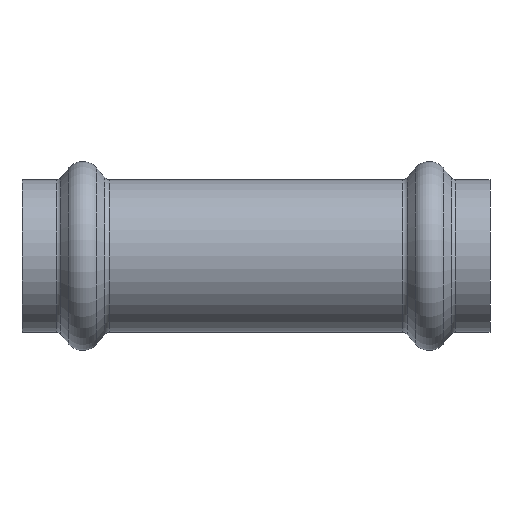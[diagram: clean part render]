
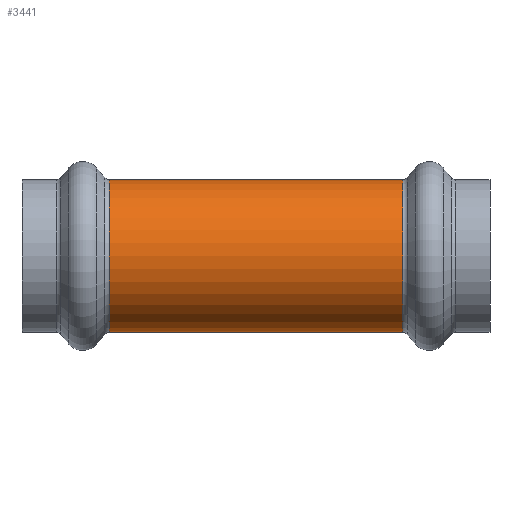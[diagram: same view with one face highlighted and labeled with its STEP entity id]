
A CAD part, front view. The second image highlights one B-rep face of the part: STEP entity #3441.
In plain terms, the highlighted cylindrical face has radius 12.55 mm (diameter 25.1 mm), a partial arc.
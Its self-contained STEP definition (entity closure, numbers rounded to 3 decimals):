
#23 = ORIENTED_EDGE ( 'NONE', *, *, #2816, .T. ) ;
#318 = CYLINDRICAL_SURFACE ( 'NONE', #4081, 12.55 ) ;
#604 = CIRCLE ( 'NONE', #2730, 12.55 ) ;
#901 = VERTEX_POINT ( 'NONE', #3818 ) ;
#983 = VERTEX_POINT ( 'NONE', #1354 ) ;
#1035 = CARTESIAN_POINT ( 'NONE',  ( -58.611, 0., 12.55 ) ) ;
#1182 = CARTESIAN_POINT ( 'NONE',  ( -58.611, 0., -12.55 ) ) ;
#1244 = VERTEX_POINT ( 'NONE', #4424 ) ;
#1251 = EDGE_LOOP ( 'NONE', ( #3300, #2529, #23, #4673 ) ) ;
#1333 = CARTESIAN_POINT ( 'NONE',  ( 24.129, 0., 12.55 ) ) ;
#1354 = CARTESIAN_POINT ( 'NONE',  ( -24.129, 0., 12.55 ) ) ;
#1372 = DIRECTION ( 'NONE',  ( 0., 0., 1. ) ) ;
#1429 = DIRECTION ( 'NONE',  ( -1., 0., 0. ) ) ;
#1464 = DIRECTION ( 'NONE',  ( -1., 0., 0. ) ) ;
#1525 = CIRCLE ( 'NONE', #4144, 12.55 ) ;
#1554 = VECTOR ( 'NONE', #2435, 1000. ) ;
#1722 = FACE_OUTER_BOUND ( 'NONE', #1251, .T. ) ;
#1727 = EDGE_CURVE ( 'NONE', #983, #901, #1525, .T. ) ;
#1978 = DIRECTION ( 'NONE',  ( -1., 0., 0. ) ) ;
#1984 = DIRECTION ( 'NONE',  ( 1., 0., 0. ) ) ;
#2435 = DIRECTION ( 'NONE',  ( -1., 0., 0. ) ) ;
#2529 = ORIENTED_EDGE ( 'NONE', *, *, #4669, .T. ) ;
#2532 = LINE ( 'NONE', #1182, #1554 ) ;
#2730 = AXIS2_PLACEMENT_3D ( 'NONE', #2794, #1429, #1372 ) ;
#2794 = CARTESIAN_POINT ( 'NONE',  ( 24.129, 0., 0. ) ) ;
#2816 = EDGE_CURVE ( 'NONE', #3297, #983, #3541, .T. ) ;
#3030 = CARTESIAN_POINT ( 'NONE',  ( -24.129, 0., 0. ) ) ;
#3297 = VERTEX_POINT ( 'NONE', #1333 ) ;
#3300 = ORIENTED_EDGE ( 'NONE', *, *, #4747, .F. ) ;
#3441 = ADVANCED_FACE ( 'NONE', ( #1722 ), #318, .T. ) ;
#3541 = LINE ( 'NONE', #1035, #4844 ) ;
#3774 = DIRECTION ( 'NONE',  ( 0., 0., -1. ) ) ;
#3818 = CARTESIAN_POINT ( 'NONE',  ( -24.129, 0., -12.55 ) ) ;
#3964 = DIRECTION ( 'NONE',  ( 0., 0., 1. ) ) ;
#4081 = AXIS2_PLACEMENT_3D ( 'NONE', #4580, #1464, #3964 ) ;
#4144 = AXIS2_PLACEMENT_3D ( 'NONE', #3030, #1984, #3774 ) ;
#4424 = CARTESIAN_POINT ( 'NONE',  ( 24.129, 0., -12.55 ) ) ;
#4580 = CARTESIAN_POINT ( 'NONE',  ( -58.611, 0., 0. ) ) ;
#4669 = EDGE_CURVE ( 'NONE', #1244, #3297, #604, .T. ) ;
#4673 = ORIENTED_EDGE ( 'NONE', *, *, #1727, .T. ) ;
#4747 = EDGE_CURVE ( 'NONE', #1244, #901, #2532, .T. ) ;
#4844 = VECTOR ( 'NONE', #1978, 1000. ) ;
